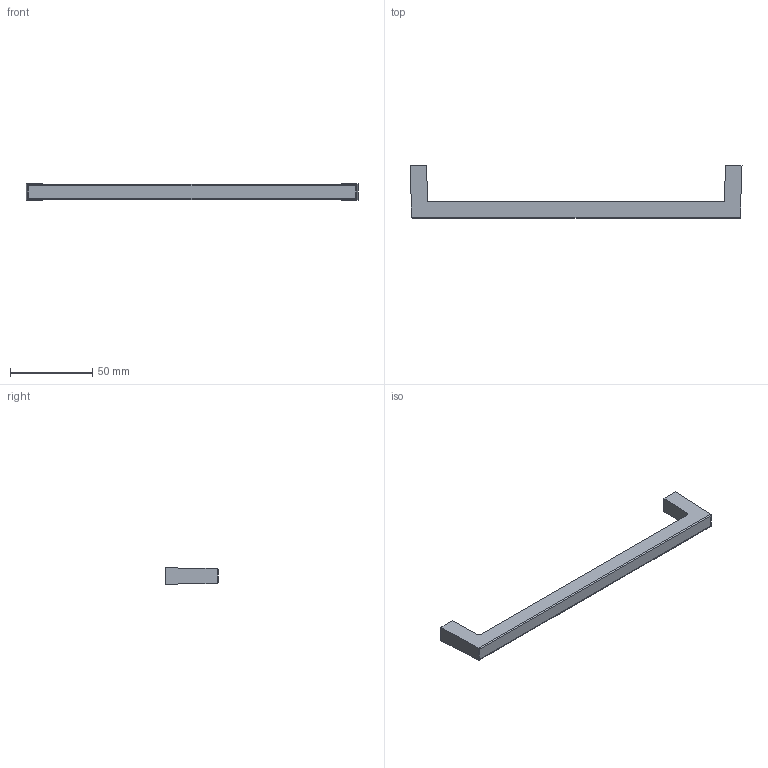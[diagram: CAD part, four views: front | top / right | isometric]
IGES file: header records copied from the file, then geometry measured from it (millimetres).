
Start section: Data from Parasolid IGES Translator 20.0.26, Copyright(c) 2006 Siemens P LM Software. All Rights Reserved.
Global section: file name: 9112941.igs; native system: By Siemens PLM Incorporated; preprocessor: XPlus GENERIC/IGES 20.0.26; author: Noname; organization: Noname; date: 20211115.183445; units: millimetre
Bounding box: 202 x 32 x 10 mm (x, y, z)
Surface area: 9619.4 mm2 (no closed solid volume)
Topology: 0 solids, 0 shells, 20 faces, 96 edges, 94 vertices
Faces by surface type: extrusion 12, revolution 8
